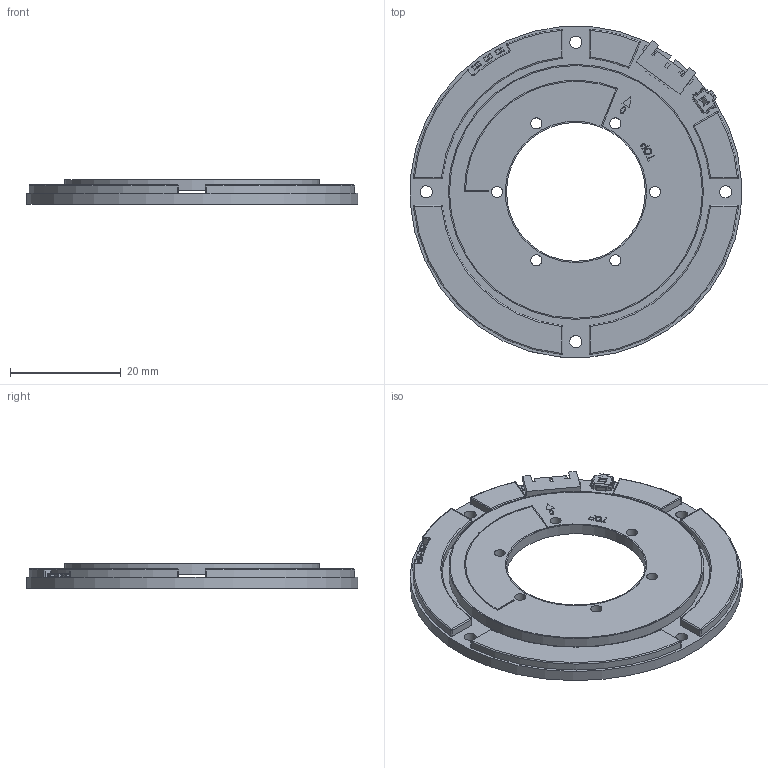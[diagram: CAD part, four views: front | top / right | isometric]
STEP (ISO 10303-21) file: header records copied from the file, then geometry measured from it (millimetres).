
FILE_DESCRIPTION(/* description */ ('Unknown'),/* implementation_level */ '2;1');
FILE_NAME(/* name */ 'RAIK060_assemblage_6_trous',/* time_stamp */ '2024-09-04T16:44:49+02:00',/* author */ ('Unknown'),/* organization */ ('Unknown'),/* preprocessor_version */ 'ST-DEVELOPER v19.4',/* originating_system */ 'Solid Edge',/* authorisation */ 'Unknown');
FILE_SCHEMA (('AUTOMOTIVE_DESIGN {1 0 10303 214 3 1 1}'));
Length unit declared in the file: millimetre
Products named in the file (8): 841048-3D_C0_Datasheet_Case_2; 841048-3D_C0_Datasheet; 5037630691_molex; Bouton; Led_S; Led_O; Led_G; 676385-3D_C1_TrousLisses
Assembly tree (7 placements, depth 2):
  841048-3D_C0_Datasheet_Case_2
    841048-3D_C0_Datasheet
    5037630691_molex
    Bouton
    Led_S
    Led_O
    Led_G
    676385-3D_C1_TrousLisses
Bounding box: 59.77 x 59.73 x 4.43 mm (x, y, z)
Volume: 7347 mm3; surface area: 8169.4 mm2
Topology: 61 solids, 61 shells, 1496 faces, 3974 edges, 2565 vertices
Faces by surface type: plane 1128, cylinder 254, bspline 78, sphere 22, torus 14
Full cylindrical faces by diameter (mm): 2 x6, 2.2 x4, 25.05 x1, 32.5 x1, 45.6 x1, 46 x1
Entity records: 52983 total; most frequent: CARTESIAN_POINT 9574, ORIENTED_EDGE 7808, DIRECTION 7187, EDGE_CURVE 3904, LINE 3155, VECTOR 3155, VERTEX_POINT 2559, AXIS2_PLACEMENT_3D 2016
